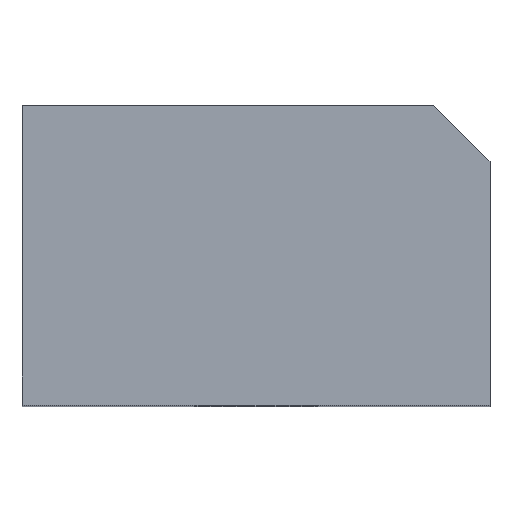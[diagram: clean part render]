
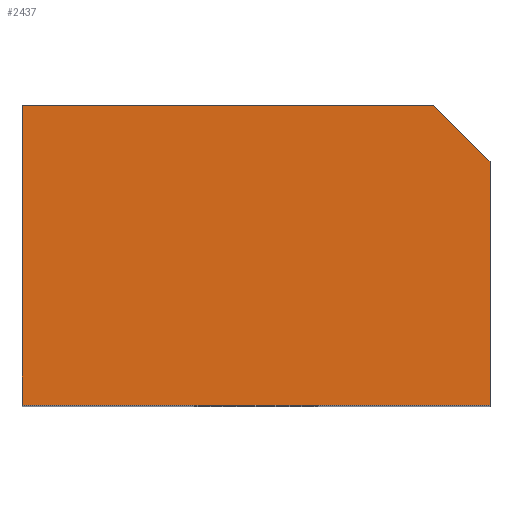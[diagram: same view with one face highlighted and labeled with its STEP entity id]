
A CAD part, top view. The second image highlights one B-rep face of the part: STEP entity #2437.
In plain terms, the highlighted planar face has unit normal (0, 0, 1).
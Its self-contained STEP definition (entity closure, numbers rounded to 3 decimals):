
#7 = CARTESIAN_POINT ( 'NONE',  ( -12.41, -7.95, 25.125 ) ) ;
#27 = EDGE_CURVE ( 'NONE', #3931, #1254, #2655, .T. ) ;
#117 = CARTESIAN_POINT ( 'NONE',  ( -12.41, 7.95, 25.125 ) ) ;
#263 = DIRECTION ( 'NONE',  ( -1., 0., 0. ) ) ;
#282 = LINE ( 'NONE', #7, #4164 ) ;
#343 = CARTESIAN_POINT ( 'NONE',  ( 12.41, 4.95, 25.125 ) ) ;
#377 = DIRECTION ( 'NONE',  ( 0., 0., 1. ) ) ;
#463 = EDGE_CURVE ( 'NONE', #1282, #2016, #282, .T. ) ;
#821 = VECTOR ( 'NONE', #1866, 1000. ) ;
#974 = CARTESIAN_POINT ( 'NONE',  ( 0., 0., 25.125 ) ) ;
#1211 = EDGE_LOOP ( 'NONE', ( #4345, #2006, #4063, #4467, #2415 ) ) ;
#1254 = VERTEX_POINT ( 'NONE', #117 ) ;
#1282 = VERTEX_POINT ( 'NONE', #2607 ) ;
#1367 = PLANE ( 'NONE',  #4296 ) ;
#1597 = LINE ( 'NONE', #3050, #3475 ) ;
#1666 = DIRECTION ( 'NONE',  ( 1., 0., 0. ) ) ;
#1866 = DIRECTION ( 'NONE',  ( -0.707, 0.707, 0. ) ) ;
#1904 = VERTEX_POINT ( 'NONE', #343 ) ;
#2006 = ORIENTED_EDGE ( 'NONE', *, *, #4386, .T. ) ;
#2016 = VERTEX_POINT ( 'NONE', #2525 ) ;
#2415 = ORIENTED_EDGE ( 'NONE', *, *, #463, .T. ) ;
#2437 = ADVANCED_FACE ( 'NONE', ( #2462 ), #1367, .T. ) ;
#2462 = FACE_OUTER_BOUND ( 'NONE', #1211, .T. ) ;
#2484 = CARTESIAN_POINT ( 'NONE',  ( 9.41, 7.95, 25.125 ) ) ;
#2525 = CARTESIAN_POINT ( 'NONE',  ( 12.41, -7.95, 25.125 ) ) ;
#2607 = CARTESIAN_POINT ( 'NONE',  ( -12.41, -7.95, 25.125 ) ) ;
#2655 = LINE ( 'NONE', #4080, #2742 ) ;
#2742 = VECTOR ( 'NONE', #263, 1000. ) ;
#2926 = CARTESIAN_POINT ( 'NONE',  ( 12.41, 7.95, 25.125 ) ) ;
#3050 = CARTESIAN_POINT ( 'NONE',  ( -12.41, 7.95, 25.125 ) ) ;
#3235 = CARTESIAN_POINT ( 'NONE',  ( 8.68, 8.68, 25.125 ) ) ;
#3379 = DIRECTION ( 'NONE',  ( 0., -1., 0. ) ) ;
#3475 = VECTOR ( 'NONE', #3379, 1000. ) ;
#3603 = DIRECTION ( 'NONE',  ( 0., 1., 0. ) ) ;
#3887 = DIRECTION ( 'NONE',  ( 1., 0., 0. ) ) ;
#3931 = VERTEX_POINT ( 'NONE', #2484 ) ;
#3964 = LINE ( 'NONE', #3235, #821 ) ;
#3987 = EDGE_CURVE ( 'NONE', #1254, #1282, #1597, .T. ) ;
#4063 = ORIENTED_EDGE ( 'NONE', *, *, #27, .T. ) ;
#4080 = CARTESIAN_POINT ( 'NONE',  ( -12.41, 7.95, 25.125 ) ) ;
#4164 = VECTOR ( 'NONE', #1666, 1000. ) ;
#4266 = EDGE_CURVE ( 'NONE', #2016, #1904, #4413, .T. ) ;
#4296 = AXIS2_PLACEMENT_3D ( 'NONE', #974, #377, #3887 ) ;
#4345 = ORIENTED_EDGE ( 'NONE', *, *, #4266, .T. ) ;
#4386 = EDGE_CURVE ( 'NONE', #1904, #3931, #3964, .T. ) ;
#4413 = LINE ( 'NONE', #2926, #4470 ) ;
#4467 = ORIENTED_EDGE ( 'NONE', *, *, #3987, .T. ) ;
#4470 = VECTOR ( 'NONE', #3603, 1000. ) ;
